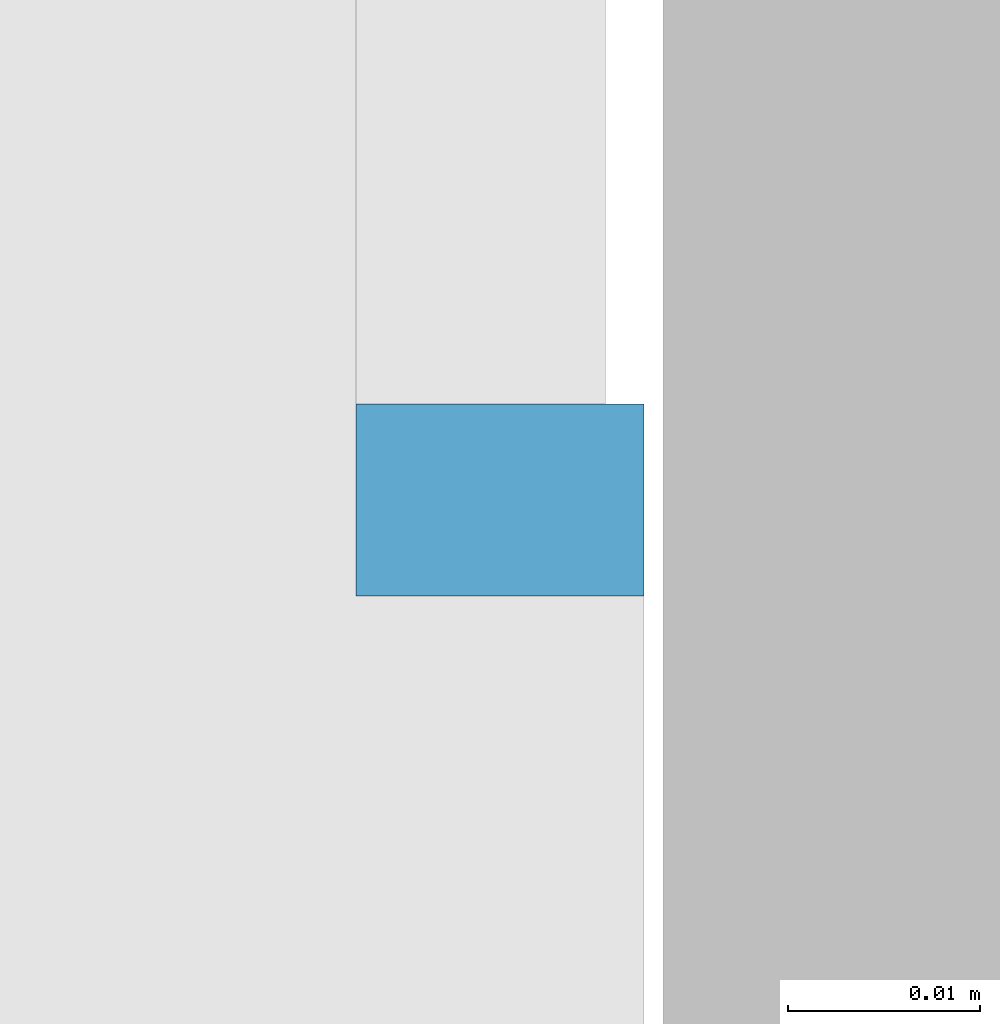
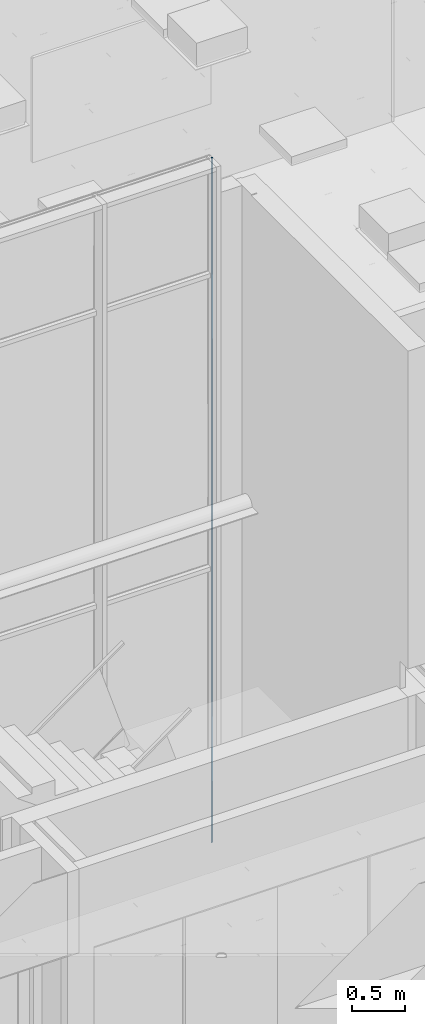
# One storey, part 108 of 347: 1 building element part, 1 element without a shape of its own.
"""IFC2X3 building model written with IfcOpenShell, lengths in millimetres."""

from ifc_helpers import new_model, entity, si_unit, converted_unit, derived_unit, money_unit, direction, frame, origin_with_axes, place, context, subcontext, project, spatial, faceted_brep, material, type_object, element, aggregate, save


model = new_model("IFC2X3")

# Units and contexts
model_context = context("Model", 3, precision=0.01, world=origin_with_axes(), true_north=direction((0.0, 1.0)))
plan_context = context("Plan", 3, precision=0.01, world=origin_with_axes(), true_north=direction((0.0, 1.0)))
body_context = subcontext(model_context, "Body", "Model", "MODEL_VIEW")
ifc_project = project(units=[si_unit("LENGTHUNIT", "METRE", prefix="MILLI"), si_unit("AREAUNIT", "SQUARE_METRE"), si_unit("VOLUMEUNIT", "CUBIC_METRE"), converted_unit("PLANEANGLEUNIT", "DEGREE", entity("IfcPlaneAngleMeasure", 0.0174532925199), si_unit("PLANEANGLEUNIT", "RADIAN"), dimensions=[0, 0, 0, 0, 0, 0, 0]), money_unit("EUR"), converted_unit("TIMEUNIT", "Year", entity("IfcTimeMeasure", 31556926.0), si_unit("TIMEUNIT", "SECOND"), dimensions=[0, 0, 1, 0, 0, 0, 0]), si_unit("MASSUNIT", "GRAM", prefix="KILO"), si_unit("THERMODYNAMICTEMPERATUREUNIT", "DEGREE_CELSIUS"), si_unit("LUMINOUSINTENSITYUNIT", "LUMEN"), si_unit("ENERGYUNIT", "JOULE", prefix="MEGA"), derived_unit("THERMALCONDUCTANCEUNIT", [(si_unit("POWERUNIT", "WATT"), 1), (si_unit("LENGTHUNIT", "METRE"), -1), (si_unit("THERMODYNAMICTEMPERATUREUNIT", "KELVIN"), -1)]), derived_unit("SPECIFICHEATCAPACITYUNIT", [(si_unit("ENERGYUNIT", "JOULE"), 1), (si_unit("MASSUNIT", "GRAM", prefix="KILO"), -1), (si_unit("THERMODYNAMICTEMPERATUREUNIT", "KELVIN"), -1)]), derived_unit("MASSDENSITYUNIT", [(si_unit("MASSUNIT", "GRAM", prefix="KILO"), 1), (si_unit("VOLUMEUNIT", "CUBIC_METRE"), -1)])], contexts=[model_context, plan_context])

# Site, building, storey
site_placement = place(None, origin_with_axes())
site = spatial("IfcSite", under=ifc_project, at=site_placement, Name="Site", CompositionType="ELEMENT")
building_placement = place(site_placement, origin_with_axes())
building = spatial("IfcBuilding", under=site, at=building_placement, Name="Naam gebouw", CompositionType="ELEMENT")
storey_placement = place(building_placement, origin_with_axes())
storey = spatial("IfcBuildingStorey", under=building, at=storey_placement, Name="begane grond", CompositionType="ELEMENT", Elevation=0.0)

# Column, building element part
column_type = type_object("IfcColumnType", Name="31 vliesgevelstijl 50 x 215", PredefinedType="COLUMN")
column_placement = place(storey_placement, frame((23809.9999999, 18400.0, 0.0), z_axis=(0.0, 0.0, 1.0), x_axis=(1.0, 0.0, 0.0)))
column = element("IfcColumn", 1, at=column_placement, inside=storey, type_object=column_type, Name="28_kolom ø 275mm", ObjectType="COLUMN")
ifc_material = material(Name="Membraan - rubber")
building_element_part_placement = place(column_placement, origin_with_axes())
building_element_part = element("IfcBuildingElementPart", 2, at=building_element_part_placement, material=ifc_material, Name="Membraan - rubber", context=body_context, shape_type="Brep", body=[
    faceted_brep([(10.0000001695, 160.000000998, 7840.0), (10.0000001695, 160.000000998, 0.0), (10.0000001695, 150.000000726, 0.0), (10.0000001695, 150.000000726, 7840.0), (23.000000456, 160.000000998, 7840.0), (23.000000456, 160.000000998, 0.0), (25.0000002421, 160.000000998, 0.0), (25.0000002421, 150.000000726, 0.0), (25.0000002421, 150.000000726, 7840.0), (25.0000002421, 160.000000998, 7840.0)], [[[0, 1, 2, 3]], [[4, 5, 1, 0]], [[2, 1, 5, 6, 7]], [[3, 2, 7, 8]], [[4, 0, 3, 8, 9]], [[9, 6, 5, 4]], [[8, 7, 6, 9]]]),
])
aggregate(column, [building_element_part])

save(model, "model.ifc")
